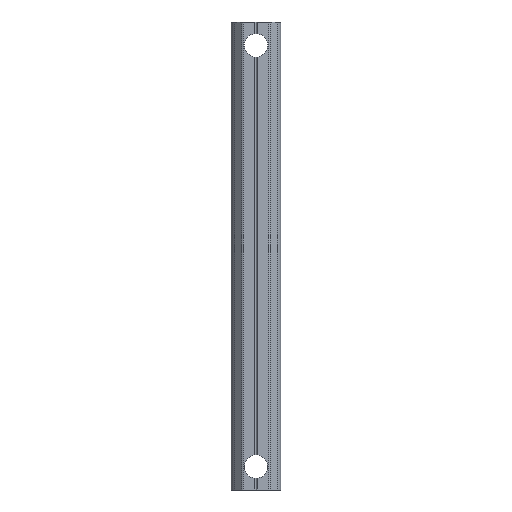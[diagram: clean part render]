
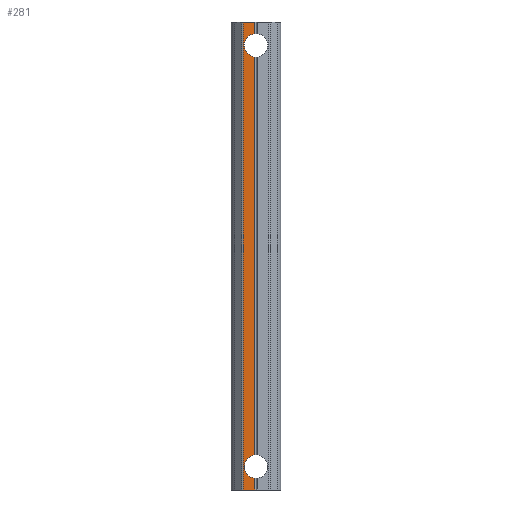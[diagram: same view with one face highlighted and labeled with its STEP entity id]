
A CAD part, front view. The second image highlights one B-rep face of the part: STEP entity #281.
In plain terms, the highlighted planar face has unit normal (0, -1, 0).
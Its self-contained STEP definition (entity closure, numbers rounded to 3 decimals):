
#27 = CARTESIAN_POINT ( 'NONE',  ( -2.728, 0., 50. ) ) ;
#132 = CARTESIAN_POINT ( 'NONE',  ( -0.291, 0., -50. ) ) ;
#154 = VERTEX_POINT ( 'NONE', #1803 ) ;
#170 = CARTESIAN_POINT ( 'NONE',  ( -0.291, 0., -50. ) ) ;
#193 = CARTESIAN_POINT ( 'NONE',  ( 0., 0., 45. ) ) ;
#204 = PLANE ( 'NONE',  #383 ) ;
#212 = VECTOR ( 'NONE', #861, 1000. ) ;
#268 = AXIS2_PLACEMENT_3D ( 'NONE', #193, #716, #1912 ) ;
#281 = ADVANCED_FACE ( 'NONE', ( #1305 ), #204, .T. ) ;
#288 = CARTESIAN_POINT ( 'NONE',  ( -0.291, 0., 47.483 ) ) ;
#290 = EDGE_CURVE ( 'NONE', #472, #907, #980, .T. ) ;
#339 = VECTOR ( 'NONE', #1827, 1000. ) ;
#350 = VERTEX_POINT ( 'NONE', #466 ) ;
#353 = ORIENTED_EDGE ( 'NONE', *, *, #595, .T. ) ;
#361 = CARTESIAN_POINT ( 'NONE',  ( 0., 0., -45. ) ) ;
#364 = VECTOR ( 'NONE', #870, 1000. ) ;
#383 = AXIS2_PLACEMENT_3D ( 'NONE', #401, #1215, #500 ) ;
#384 = LINE ( 'NONE', #417, #1110 ) ;
#394 = CARTESIAN_POINT ( 'NONE',  ( -0.291, 0., -50. ) ) ;
#398 = EDGE_CURVE ( 'NONE', #1078, #1530, #1882, .T. ) ;
#401 = CARTESIAN_POINT ( 'NONE',  ( 2.936, 0., 50. ) ) ;
#417 = CARTESIAN_POINT ( 'NONE',  ( 2.936, 0., -50. ) ) ;
#427 = LINE ( 'NONE', #749, #1150 ) ;
#455 = CARTESIAN_POINT ( 'NONE',  ( -0.291, 0., -47.483 ) ) ;
#466 = CARTESIAN_POINT ( 'NONE',  ( -0.291, 0., -50. ) ) ;
#472 = VERTEX_POINT ( 'NONE', #1693 ) ;
#500 = DIRECTION ( 'NONE',  ( 0., 0., -1. ) ) ;
#501 = ORIENTED_EDGE ( 'NONE', *, *, #618, .T. ) ;
#595 = EDGE_CURVE ( 'NONE', #154, #1012, #427, .T. ) ;
#597 = CARTESIAN_POINT ( 'NONE',  ( -0.291, 0., -42.517 ) ) ;
#618 = EDGE_CURVE ( 'NONE', #907, #154, #1114, .T. ) ;
#653 = ORIENTED_EDGE ( 'NONE', *, *, #1471, .T. ) ;
#716 = DIRECTION ( 'NONE',  ( 0., 1., 0. ) ) ;
#743 = DIRECTION ( 'NONE',  ( -1., 0., 0. ) ) ;
#749 = CARTESIAN_POINT ( 'NONE',  ( 2.936, 0., 50. ) ) ;
#759 = DIRECTION ( 'NONE',  ( -1., 0., 0. ) ) ;
#790 = LINE ( 'NONE', #170, #364 ) ;
#826 = CARTESIAN_POINT ( 'NONE',  ( -2.728, 0., -50. ) ) ;
#835 = LINE ( 'NONE', #1132, #1548 ) ;
#851 = EDGE_CURVE ( 'NONE', #1012, #1740, #835, .T. ) ;
#861 = DIRECTION ( 'NONE',  ( 0., 0., 1. ) ) ;
#870 = DIRECTION ( 'NONE',  ( 0., 0., 1. ) ) ;
#907 = VERTEX_POINT ( 'NONE', #288 ) ;
#943 = ORIENTED_EDGE ( 'NONE', *, *, #398, .T. ) ;
#946 = DIRECTION ( 'NONE',  ( 0., 1., 0. ) ) ;
#970 = DIRECTION ( 'NONE',  ( 0., 0., 1. ) ) ;
#980 = CIRCLE ( 'NONE', #268, 2.5 ) ;
#1012 = VERTEX_POINT ( 'NONE', #27 ) ;
#1048 = EDGE_CURVE ( 'NONE', #350, #1078, #1382, .T. ) ;
#1078 = VERTEX_POINT ( 'NONE', #455 ) ;
#1110 = VECTOR ( 'NONE', #759, 1000. ) ;
#1114 = LINE ( 'NONE', #394, #339 ) ;
#1132 = CARTESIAN_POINT ( 'NONE',  ( -2.728, 0., 50. ) ) ;
#1136 = ORIENTED_EDGE ( 'NONE', *, *, #1048, .T. ) ;
#1150 = VECTOR ( 'NONE', #743, 1000. ) ;
#1215 = DIRECTION ( 'NONE',  ( 0., -1., 0. ) ) ;
#1305 = FACE_OUTER_BOUND ( 'NONE', #1509, .T. ) ;
#1360 = DIRECTION ( 'NONE',  ( 0., 0., -1. ) ) ;
#1382 = LINE ( 'NONE', #132, #212 ) ;
#1471 = EDGE_CURVE ( 'NONE', #1530, #472, #790, .T. ) ;
#1509 = EDGE_LOOP ( 'NONE', ( #353, #1753, #1681, #1136, #943, #653, #1783, #501 ) ) ;
#1527 = AXIS2_PLACEMENT_3D ( 'NONE', #361, #946, #970 ) ;
#1530 = VERTEX_POINT ( 'NONE', #597 ) ;
#1548 = VECTOR ( 'NONE', #1360, 1000. ) ;
#1681 = ORIENTED_EDGE ( 'NONE', *, *, #1734, .F. ) ;
#1693 = CARTESIAN_POINT ( 'NONE',  ( -0.291, 0., 42.517 ) ) ;
#1734 = EDGE_CURVE ( 'NONE', #350, #1740, #384, .T. ) ;
#1740 = VERTEX_POINT ( 'NONE', #826 ) ;
#1753 = ORIENTED_EDGE ( 'NONE', *, *, #851, .T. ) ;
#1783 = ORIENTED_EDGE ( 'NONE', *, *, #290, .T. ) ;
#1803 = CARTESIAN_POINT ( 'NONE',  ( -0.291, 0., 50. ) ) ;
#1827 = DIRECTION ( 'NONE',  ( 0., 0., 1. ) ) ;
#1882 = CIRCLE ( 'NONE', #1527, 2.5 ) ;
#1912 = DIRECTION ( 'NONE',  ( 0., 0., 1. ) ) ;
